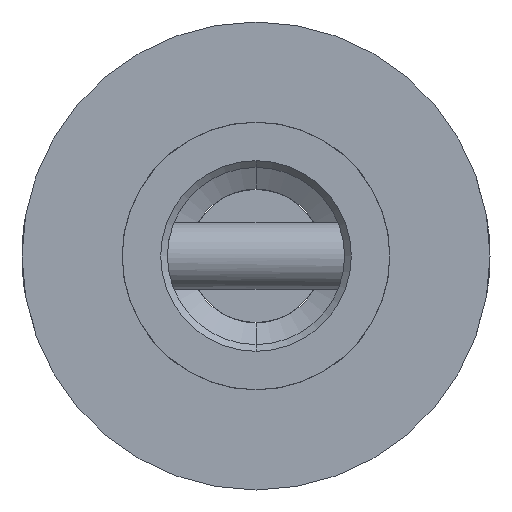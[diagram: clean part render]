
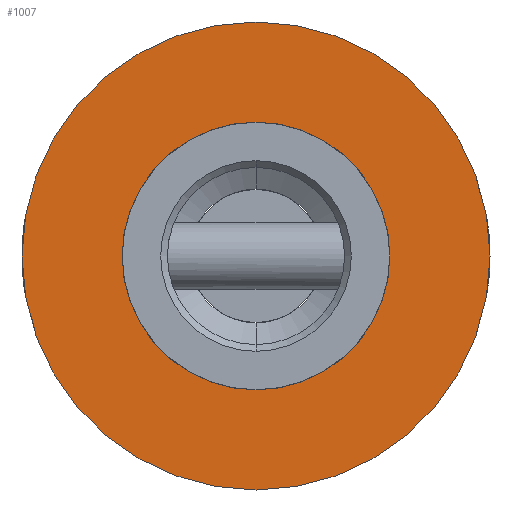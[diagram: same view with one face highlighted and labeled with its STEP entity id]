
A CAD part, front view. The second image highlights one B-rep face of the part: STEP entity #1007.
In plain terms, the highlighted planar face has unit normal (0, -1, 0).
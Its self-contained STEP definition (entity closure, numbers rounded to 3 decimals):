
#9 = CIRCLE ( 'NONE', #1910, 7. ) ;
#69 = CARTESIAN_POINT ( 'NONE',  ( 0., -300., -7. ) ) ;
#157 = DIRECTION ( 'NONE',  ( 0., -1., 0. ) ) ;
#204 = DIRECTION ( 'NONE',  ( 0., 0., -1. ) ) ;
#283 = AXIS2_PLACEMENT_3D ( 'NONE', #1784, #1528, #1588 ) ;
#441 = CIRCLE ( 'NONE', #283, 4.005 ) ;
#541 = VERTEX_POINT ( 'NONE', #1578 ) ;
#602 = CIRCLE ( 'NONE', #763, 4.005 ) ;
#611 = CARTESIAN_POINT ( 'NONE',  ( 0., -300., 0. ) ) ;
#635 = PLANE ( 'NONE',  #2419 ) ;
#650 = CARTESIAN_POINT ( 'NONE',  ( 0., -300., 7. ) ) ;
#651 = EDGE_LOOP ( 'NONE', ( #1889, #2071 ) ) ;
#750 = VERTEX_POINT ( 'NONE', #69 ) ;
#763 = AXIS2_PLACEMENT_3D ( 'NONE', #1148, #1118, #3240 ) ;
#799 = CIRCLE ( 'NONE', #2585, 7. ) ;
#959 = DIRECTION ( 'NONE',  ( 0., 0., -1. ) ) ;
#973 = CARTESIAN_POINT ( 'NONE',  ( 0., -300., 0. ) ) ;
#975 = VERTEX_POINT ( 'NONE', #650 ) ;
#992 = DIRECTION ( 'NONE',  ( 0., -1., 0. ) ) ;
#994 = FACE_BOUND ( 'NONE', #651, .T. ) ;
#1007 = ADVANCED_FACE ( 'NONE', ( #994, #2346 ), #635, .T. ) ;
#1042 = EDGE_CURVE ( 'NONE', #975, #750, #799, .T. ) ;
#1118 = DIRECTION ( 'NONE',  ( 0., -1., 0. ) ) ;
#1148 = CARTESIAN_POINT ( 'NONE',  ( 0., -300., 0. ) ) ;
#1528 = DIRECTION ( 'NONE',  ( 0., -1., 0. ) ) ;
#1578 = CARTESIAN_POINT ( 'NONE',  ( 0., -300., 4.005 ) ) ;
#1588 = DIRECTION ( 'NONE',  ( 0., 0., -1. ) ) ;
#1784 = CARTESIAN_POINT ( 'NONE',  ( 0., -300., 0. ) ) ;
#1889 = ORIENTED_EDGE ( 'NONE', *, *, #2907, .F. ) ;
#1891 = EDGE_LOOP ( 'NONE', ( #2523, #2603 ) ) ;
#1910 = AXIS2_PLACEMENT_3D ( 'NONE', #2581, #2570, #2540 ) ;
#2071 = ORIENTED_EDGE ( 'NONE', *, *, #2090, .F. ) ;
#2090 = EDGE_CURVE ( 'NONE', #541, #3090, #602, .T. ) ;
#2346 = FACE_OUTER_BOUND ( 'NONE', #1891, .T. ) ;
#2419 = AXIS2_PLACEMENT_3D ( 'NONE', #611, #157, #204 ) ;
#2523 = ORIENTED_EDGE ( 'NONE', *, *, #2665, .T. ) ;
#2540 = DIRECTION ( 'NONE',  ( 0., 0., -1. ) ) ;
#2570 = DIRECTION ( 'NONE',  ( 0., -1., 0. ) ) ;
#2581 = CARTESIAN_POINT ( 'NONE',  ( 0., -300., 0. ) ) ;
#2585 = AXIS2_PLACEMENT_3D ( 'NONE', #973, #992, #959 ) ;
#2603 = ORIENTED_EDGE ( 'NONE', *, *, #1042, .T. ) ;
#2665 = EDGE_CURVE ( 'NONE', #750, #975, #9, .T. ) ;
#2895 = CARTESIAN_POINT ( 'NONE',  ( 0., -300., -4.005 ) ) ;
#2907 = EDGE_CURVE ( 'NONE', #3090, #541, #441, .T. ) ;
#3090 = VERTEX_POINT ( 'NONE', #2895 ) ;
#3240 = DIRECTION ( 'NONE',  ( 0., 0., -1. ) ) ;
